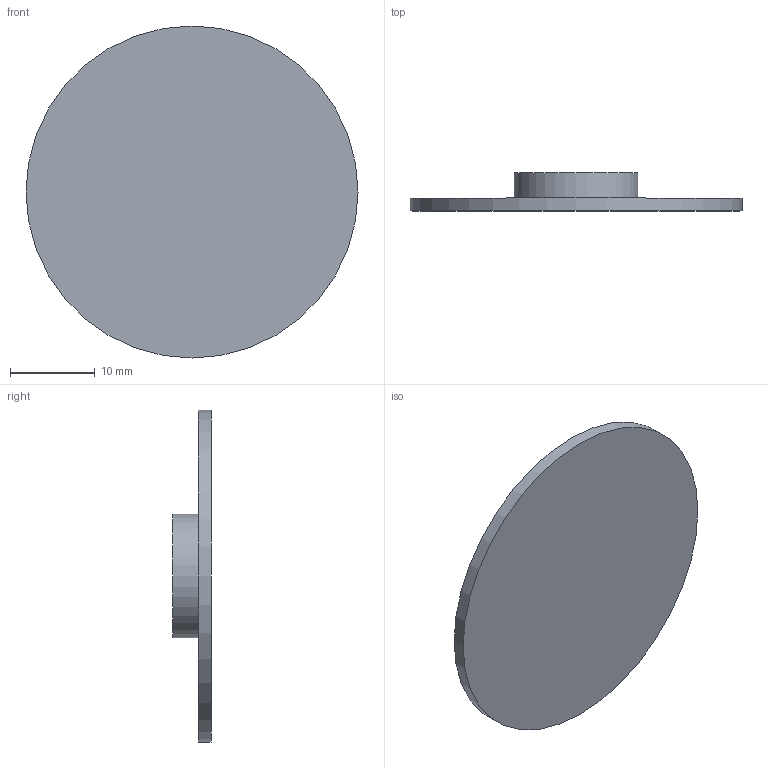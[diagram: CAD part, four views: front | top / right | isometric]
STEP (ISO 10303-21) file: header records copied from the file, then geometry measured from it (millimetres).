
FILE_DESCRIPTION(('Open CASCADE Model'),'2;1');
FILE_NAME('Open CASCADE Shape Model','2026-10-20T15:14:22',('Author'),( 'Open CASCADE'),'Open CASCADE STEP processor 7.8','Open CASCADE 7.8' ,'Unknown');
FILE_SCHEMA(('AUTOMOTIVE_DESIGN { 1 0 10303 214 1 1 1 1 }'));
Length unit declared in the file: millimetre
Products named in the file (1): Open CASCADE STEP translator 7.8 13
Bounding box: 39.2 x 4.5 x 39.2 mm (x, y, z)
Volume: 2305.4 mm3; surface area: 2751.9 mm2
Topology: 1 solids, 1 shells, 7 faces, 9 edges, 6 vertices
Faces by surface type: plane 4, cylinder 3
Full cylindrical faces by diameter (mm): 1.8 x1, 14.6 x1, 39.2 x1
Entity records: 276 total; most frequent: DIRECTION 49, CARTESIAN_POINT 41, ORIENTED_EDGE 18, PCURVE 18, DEFINITIONAL_REPRESENTATION 18, LINE 15, VECTOR 15, AXIS2_PLACEMENT_3D 14
